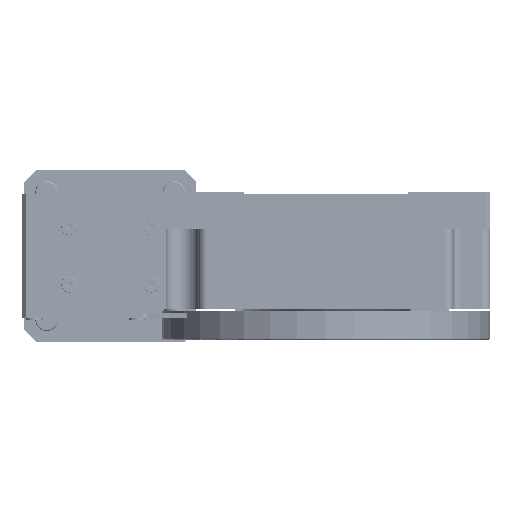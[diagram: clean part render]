
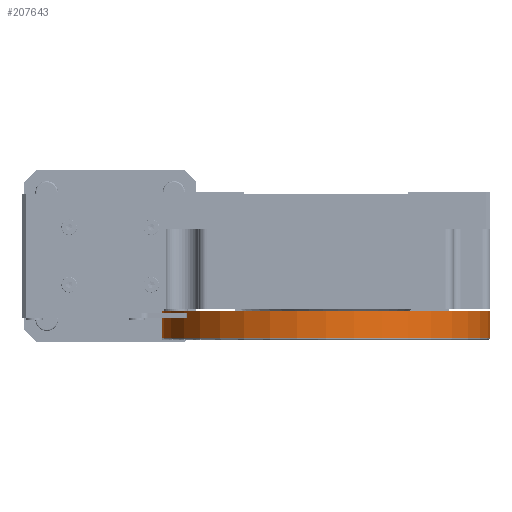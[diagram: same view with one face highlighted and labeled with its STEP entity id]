
A CAD part, left-side view. The second image highlights one B-rep face of the part: STEP entity #207643.
In plain terms, the highlighted cylindrical face has radius 40 mm (diameter 80 mm), a partial arc.
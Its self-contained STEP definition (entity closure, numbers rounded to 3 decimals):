
#65 = ORIENTED_EDGE ( 'NONE', *, *, #45010, .F. ) ;
#11843 = LINE ( 'NONE', #82438, #181699 ) ;
#18286 = AXIS2_PLACEMENT_3D ( 'NONE', #226068, #141018, #212026 ) ;
#25628 = CIRCLE ( 'NONE', #114454, 40. ) ;
#44723 = DIRECTION ( 'NONE',  ( 0., 0., -1. ) ) ;
#45010 = EDGE_CURVE ( 'NONE', #85500, #63815, #63233, .T. ) ;
#45670 = ORIENTED_EDGE ( 'NONE', *, *, #120591, .F. ) ;
#57647 = CYLINDRICAL_SURFACE ( 'NONE', #162323, 40. ) ;
#63233 = LINE ( 'NONE', #134088, #161122 ) ;
#63815 = VERTEX_POINT ( 'NONE', #143773 ) ;
#66118 = CARTESIAN_POINT ( 'NONE',  ( 56.077, -94.76, -67.556 ) ) ;
#82438 = CARTESIAN_POINT ( 'NONE',  ( 56.077, -54.76, -67.556 ) ) ;
#83561 = DIRECTION ( 'NONE',  ( 0., 0., 1. ) ) ;
#85500 = VERTEX_POINT ( 'NONE', #166087 ) ;
#85822 = VERTEX_POINT ( 'NONE', #185567 ) ;
#109893 = CARTESIAN_POINT ( 'NONE',  ( 56.077, -54.76, -67.556 ) ) ;
#114454 = AXIS2_PLACEMENT_3D ( 'NONE', #66118, #83561, #170857 ) ;
#120591 = EDGE_CURVE ( 'NONE', #180969, #85500, #25628, .T. ) ;
#121051 = ORIENTED_EDGE ( 'NONE', *, *, #140309, .T. ) ;
#128484 = DIRECTION ( 'NONE',  ( 0., 0., -1. ) ) ;
#134088 = CARTESIAN_POINT ( 'NONE',  ( 56.077, -134.76, -67.556 ) ) ;
#135888 = EDGE_CURVE ( 'NONE', #180969, #85822, #11843, .T. ) ;
#136819 = CIRCLE ( 'NONE', #18286, 40. ) ;
#140309 = EDGE_CURVE ( 'NONE', #85822, #63815, #136819, .T. ) ;
#141018 = DIRECTION ( 'NONE',  ( 0., 0., 1. ) ) ;
#143773 = CARTESIAN_POINT ( 'NONE',  ( 56.077, -134.76, -74.056 ) ) ;
#145924 = FACE_OUTER_BOUND ( 'NONE', #166105, .T. ) ;
#153343 = DIRECTION ( 'NONE',  ( 0., 0., -1. ) ) ;
#159992 = ORIENTED_EDGE ( 'NONE', *, *, #135888, .T. ) ;
#161122 = VECTOR ( 'NONE', #44723, 1000. ) ;
#162323 = AXIS2_PLACEMENT_3D ( 'NONE', #179752, #128484, #199457 ) ;
#166087 = CARTESIAN_POINT ( 'NONE',  ( 56.077, -134.76, -67.556 ) ) ;
#166105 = EDGE_LOOP ( 'NONE', ( #65, #45670, #159992, #121051 ) ) ;
#170857 = DIRECTION ( 'NONE',  ( 0., -1., 0. ) ) ;
#179752 = CARTESIAN_POINT ( 'NONE',  ( 56.077, -94.76, -67.556 ) ) ;
#180969 = VERTEX_POINT ( 'NONE', #109893 ) ;
#181699 = VECTOR ( 'NONE', #153343, 1000. ) ;
#185567 = CARTESIAN_POINT ( 'NONE',  ( 56.077, -54.76, -74.056 ) ) ;
#199457 = DIRECTION ( 'NONE',  ( 0., 1., 0. ) ) ;
#207643 = ADVANCED_FACE ( 'NONE', ( #145924 ), #57647, .T. ) ;
#212026 = DIRECTION ( 'NONE',  ( 0., -1., 0. ) ) ;
#226068 = CARTESIAN_POINT ( 'NONE',  ( 56.077, -94.76, -74.056 ) ) ;
